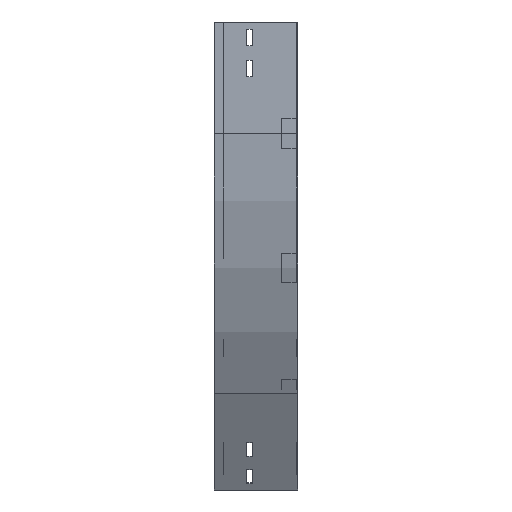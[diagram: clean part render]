
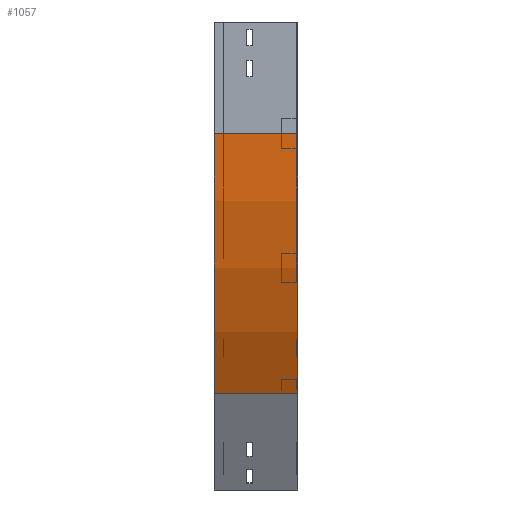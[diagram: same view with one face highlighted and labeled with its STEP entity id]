
A CAD part, left-side view. The second image highlights one B-rep face of the part: STEP entity #1057.
In plain terms, the highlighted cylindrical face has radius 700 mm (diameter 1400 mm), a partial arc.
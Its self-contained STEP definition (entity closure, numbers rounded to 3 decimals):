
#24 = DIRECTION ( 'NONE',  ( 0., -1., 0. ) ) ;
#104 = CARTESIAN_POINT ( 'NONE',  ( 93.782, 0., -500. ) ) ;
#174 = DIRECTION ( 'NONE',  ( 0., -1., 0. ) ) ;
#205 = ORIENTED_EDGE ( 'NONE', *, *, #2919, .T. ) ;
#227 = VERTEX_POINT ( 'NONE', #782 ) ;
#254 = CARTESIAN_POINT ( 'NONE',  ( 0., 0., -150. ) ) ;
#278 = CIRCLE ( 'NONE', #339, 700. ) ;
#289 = EDGE_CURVE ( 'NONE', #791, #3069, #525, .T. ) ;
#309 = DIRECTION ( 'NONE',  ( 0., 0., -1. ) ) ;
#339 = AXIS2_PLACEMENT_3D ( 'NONE', #3787, #2936, #2302 ) ;
#525 = CIRCLE ( 'NONE', #2697, 700. ) ;
#595 = EDGE_LOOP ( 'NONE', ( #1372, #928, #3400, #205 ) ) ;
#782 = CARTESIAN_POINT ( 'NONE',  ( 93.782, 0., -500. ) ) ;
#791 = VERTEX_POINT ( 'NONE', #2701 ) ;
#928 = ORIENTED_EDGE ( 'NONE', *, *, #1524, .F. ) ;
#1057 = ADVANCED_FACE ( 'NONE', ( #2331 ), #3530, .T. ) ;
#1208 = VECTOR ( 'NONE', #174, 1000. ) ;
#1372 = ORIENTED_EDGE ( 'NONE', *, *, #2722, .F. ) ;
#1524 = EDGE_CURVE ( 'NONE', #791, #3455, #3267, .T. ) ;
#1744 = DIRECTION ( 'NONE',  ( 0., -1., 0. ) ) ;
#2036 = CARTESIAN_POINT ( 'NONE',  ( 700., 0., -150. ) ) ;
#2184 = LINE ( 'NONE', #104, #1208 ) ;
#2215 = AXIS2_PLACEMENT_3D ( 'NONE', #2036, #1744, #309 ) ;
#2300 = DIRECTION ( 'NONE',  ( 0., -1., 0. ) ) ;
#2302 = DIRECTION ( 'NONE',  ( -1., 0., 0. ) ) ;
#2331 = FACE_OUTER_BOUND ( 'NONE', #595, .T. ) ;
#2449 = VECTOR ( 'NONE', #24, 1000. ) ;
#2675 = CARTESIAN_POINT ( 'NONE',  ( 0., 0., -150. ) ) ;
#2697 = AXIS2_PLACEMENT_3D ( 'NONE', #3462, #2300, #3802 ) ;
#2701 = CARTESIAN_POINT ( 'NONE',  ( 0., 112.5, -150. ) ) ;
#2722 = EDGE_CURVE ( 'NONE', #3455, #227, #278, .T. ) ;
#2884 = CARTESIAN_POINT ( 'NONE',  ( 93.782, 112.5, -500. ) ) ;
#2919 = EDGE_CURVE ( 'NONE', #3069, #227, #2184, .T. ) ;
#2936 = DIRECTION ( 'NONE',  ( 0., -1., 0. ) ) ;
#3069 = VERTEX_POINT ( 'NONE', #2884 ) ;
#3267 = LINE ( 'NONE', #2675, #2449 ) ;
#3400 = ORIENTED_EDGE ( 'NONE', *, *, #289, .T. ) ;
#3455 = VERTEX_POINT ( 'NONE', #254 ) ;
#3462 = CARTESIAN_POINT ( 'NONE',  ( 700., 112.5, -150. ) ) ;
#3530 = CYLINDRICAL_SURFACE ( 'NONE', #2215, 700. ) ;
#3787 = CARTESIAN_POINT ( 'NONE',  ( 700., 0., -150. ) ) ;
#3802 = DIRECTION ( 'NONE',  ( -1., 0., 0. ) ) ;
